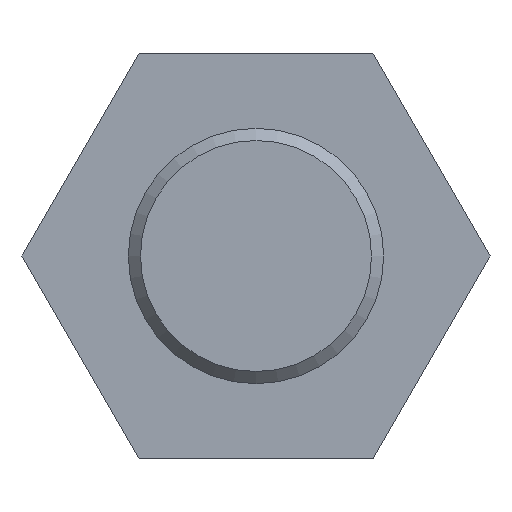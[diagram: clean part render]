
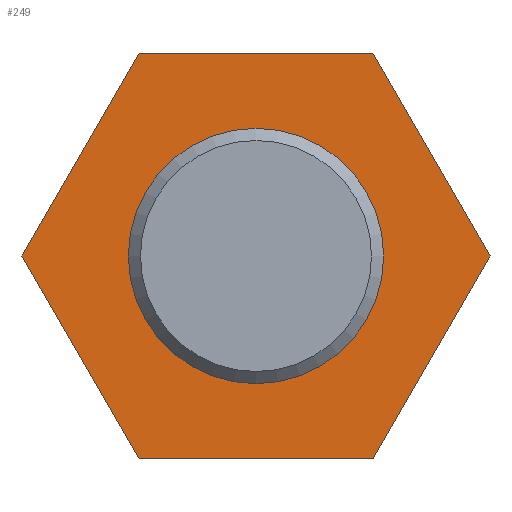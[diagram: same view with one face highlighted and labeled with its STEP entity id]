
A CAD part, left-side view. The second image highlights one B-rep face of the part: STEP entity #249.
In plain terms, the highlighted planar face has unit normal (-1, 0, 0).
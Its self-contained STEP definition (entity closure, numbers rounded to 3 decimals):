
#183=CARTESIAN_POINT('',(17.,0.,0.));
#184=DIRECTION('',(1.0,0.0,0.0));
#185=DIRECTION('',(0.0,0.0,-1.0));
#186=AXIS2_PLACEMENT_3D('',#183,#184,#185);
#187=PLANE('',#186);
#188=CARTESIAN_POINT('',(17.0,2.887,-5.));
#189=VERTEX_POINT('',#188);
#190=CARTESIAN_POINT('',(17.0,-2.887,-5.));
#191=VERTEX_POINT('',#190);
#192=CARTESIAN_POINT('',(17.0,2.887,-5.));
#193=DIRECTION('',(0.0,-1.0,0.0));
#194=VECTOR('',#193,5.774);
#195=LINE('',#192,#194);
#196=EDGE_CURVE('',#189,#191,#195,.T.);
#197=ORIENTED_EDGE('',*,*,#196,.T.);
#198=CARTESIAN_POINT('',(17.0,-5.774,0.));
#199=VERTEX_POINT('',#198);
#200=CARTESIAN_POINT('',(17.0,-2.887,-5.));
#201=DIRECTION('',(0.0,-0.5,0.866));
#202=VECTOR('',#201,5.774);
#203=LINE('',#200,#202);
#204=EDGE_CURVE('',#191,#199,#203,.T.);
#205=ORIENTED_EDGE('',*,*,#204,.T.);
#206=CARTESIAN_POINT('',(17.0,-2.887,5.0));
#207=VERTEX_POINT('',#206);
#208=CARTESIAN_POINT('',(17.0,-5.774,0.));
#209=DIRECTION('',(0.0,0.5,0.866));
#210=VECTOR('',#209,5.774);
#211=LINE('',#208,#210);
#212=EDGE_CURVE('',#199,#207,#211,.T.);
#213=ORIENTED_EDGE('',*,*,#212,.T.);
#214=CARTESIAN_POINT('',(17.0,2.887,5.0));
#215=VERTEX_POINT('',#214);
#216=CARTESIAN_POINT('',(17.0,-2.887,5.0));
#217=DIRECTION('',(0.0,1.0,0.0));
#218=VECTOR('',#217,5.774);
#219=LINE('',#216,#218);
#220=EDGE_CURVE('',#207,#215,#219,.T.);
#221=ORIENTED_EDGE('',*,*,#220,.T.);
#222=CARTESIAN_POINT('',(17.0,5.774,0.));
#223=VERTEX_POINT('',#222);
#224=CARTESIAN_POINT('',(17.0,2.887,5.0));
#225=DIRECTION('',(0.0,0.5,-0.866));
#226=VECTOR('',#225,5.774);
#227=LINE('',#224,#226);
#228=EDGE_CURVE('',#215,#223,#227,.T.);
#229=ORIENTED_EDGE('',*,*,#228,.T.);
#230=CARTESIAN_POINT('',(17.0,5.774,0.));
#231=DIRECTION('',(0.0,-0.5,-0.866));
#232=VECTOR('',#231,5.774);
#233=LINE('',#230,#232);
#234=EDGE_CURVE('',#223,#189,#233,.T.);
#235=ORIENTED_EDGE('',*,*,#234,.T.);
#236=EDGE_LOOP('',(#197,#205,#213,#221,#229,#235));
#237=FACE_OUTER_BOUND('',#236,.T.);
#238=CARTESIAN_POINT('',(17.0,3.15,0.0));
#239=VERTEX_POINT('',#238);
#240=CARTESIAN_POINT('',(17.0,0.0,0.0));
#241=DIRECTION('',(1.0,0.0,0.0));
#242=DIRECTION('',(0.0,1.0,0.0));
#243=AXIS2_PLACEMENT_3D('',#240,#241,#242);
#244=CIRCLE('',#243,3.15);
#245=EDGE_CURVE('',#239,#239,#244,.T.);
#246=ORIENTED_EDGE('',*,*,#245,.T.);
#247=EDGE_LOOP('',(#246));
#248=FACE_BOUND('',#247,.T.);
#249=ADVANCED_FACE('',(#237,#248),#187,.F.);
